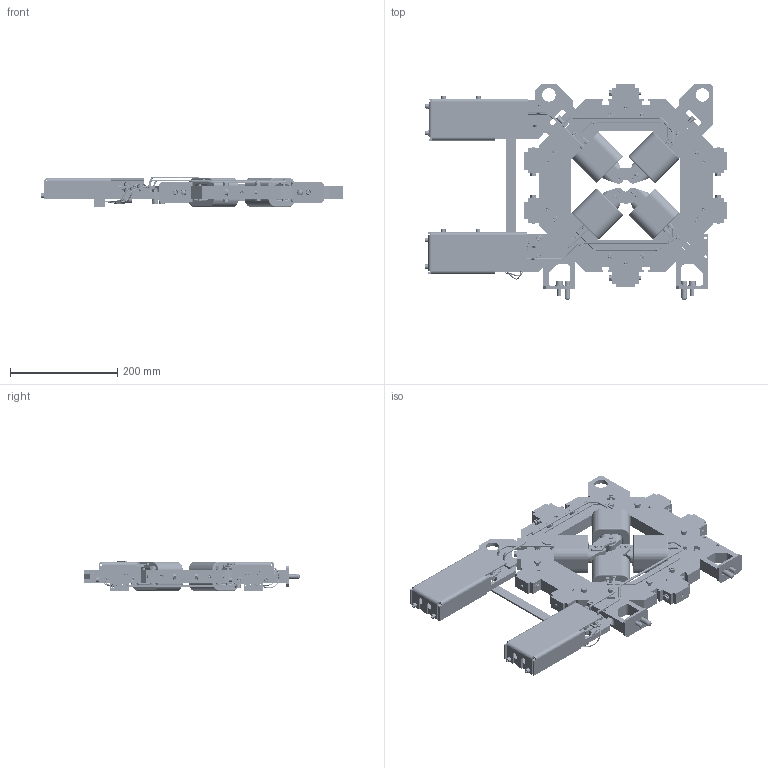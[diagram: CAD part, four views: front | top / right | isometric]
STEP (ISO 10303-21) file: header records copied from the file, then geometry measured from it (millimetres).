
FILE_DESCRIPTION(/* description */ (''),/* implementation_level */ '2;1');
FILE_NAME(/* name */ 'CAO000162747_AA-QUADRUPOLE CORRECTION INTEGRABLE.stp',/* time_stamp */ '2025-04-09T16:34:46+02:00',/* author */ (''),/* organization */ (''),/* preprocessor_version */ 'ST-DEVELOPER v20',/* originating_system */ 'SIEMENS PLM Software NX2406.7001',/* authorisation */ '');
FILE_SCHEMA (('AUTOMOTIVE_DESIGN { 1 0 10303 214 3 1 1 1 }'));
Products named in the file (1): CAO000162747_objects
Bounding box: 563.5 x 402.35 x 57.45 mm (x, y, z)
Volume: 3330432.6 mm3; surface area: 890956 mm2
Topology: 328 solids, 328 shells, 6362 faces, 14461 edges, 8792 vertices
Faces by surface type: plane 2672, cone 1991, cylinder 1233, bspline 211, torus 197, sphere 58
Full cylindrical faces by diameter (mm): 1 x8, 2 x40, 2.5 x34, 2.874 x7, 3 x8, 3.2 x26, 3.22 x8, 3.242 x4, 3.3 x18, 3.4 x6, 3.838 x4, 4 x32, 4.1 x4, 4.134 x8, 4.3 x34, 4.45 x30, 4.5 x8, 4.826 x8, 4.917 x6, 5 x20, 5.188 x4, 5.5 x15, 5.795 x12, 6 x30, 6.1 x4, 6.2 x12, 6.4 x36, 6.5 x14, 6.6 x30, 7 x16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
Entity records: 180085 total; most frequent: CARTESIAN_POINT 46863, DIRECTION 26836, ORIENTED_EDGE 24768, EDGE_CURVE 12384, AXIS2_PLACEMENT_3D 10980, EDGE_LOOP 8552, VERTEX_POINT 8351, ADVANCED_FACE 6362
